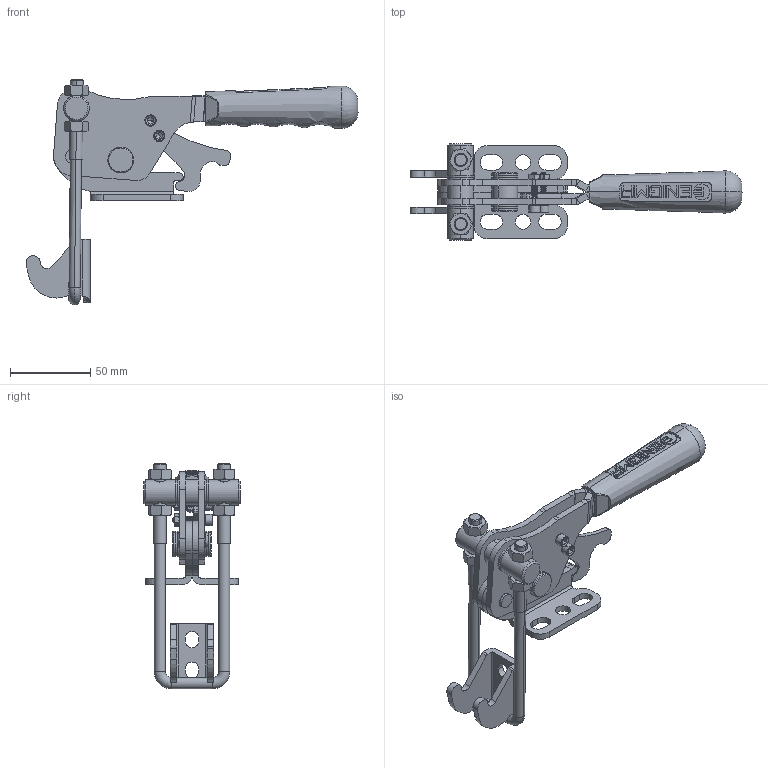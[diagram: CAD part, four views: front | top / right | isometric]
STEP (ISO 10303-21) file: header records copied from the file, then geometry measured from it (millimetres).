
FILE_DESCRIPTION (( 'STEP AP203' ), '1' );
FILE_NAME ('13208_Y_K.STEP', '2022-11-30T08:53:09', ( '' ), ( '' ), 'SwSTEP 2.0', 'SolidWorks 2023', '' );
FILE_SCHEMA (( 'CONFIG_CONTROL_DESIGN' ));
Length unit declared in the file: millimetre
Products named in the file (15): Mirror2022_13108_13110_Y_G_X2_00d6_X0_VDE_1; M8x50_U_KANCA_Varsayılan; 13108_OTOMAT_2_Varsay_X2_0131_X0_lan; 13208_Y_K; C95_Yeni_Tutamak_Varsay_X2_0131_X0_lan; M4_S; 2022_13108_13110_Y_G_X2_00d6_X0_VDE_1; _X2_00d8_X0_6x18_P(PER_X2_00c70130_X0_N)_Varsay_X2_0131_X0_lan; Mirror13108_H.KOLU_2022_Varsay_X2_0131_X0_lan; 13108_H.KOLU_2022_Varsay_X2_0131_X0_lan; M8 Somun; M8_M10_KK; 13108_OTOMAT_Varsay_X2_0131_X0_lan; 13108_K_X2_0130_X0_L_X2_0130_X0_T_MEKAN_X2_0130_X0_ZMASI; S_M4x20 Imbus Civata
Assembly tree (19 placements, depth 2):
  13208_Y_K
    2022_13108_13110_Y_G_X2_00d6_X0_VDE_1
    13108_K_X2_0130_X0_L_X2_0130_X0_T_MEKAN_X2_0130_X0_ZMASI
    13108_OTOMAT_Varsay_X2_0131_X0_lan
    13108_OTOMAT_2_Varsay_X2_0131_X0_lan
    13108_H.KOLU_2022_Varsay_X2_0131_X0_lan
    Mirror13108_H.KOLU_2022_Varsay_X2_0131_X0_lan
    Mirror2022_13108_13110_Y_G_X2_00d6_X0_VDE_1
    M8_M10_KK
    C95_Yeni_Tutamak_Varsay_X2_0131_X0_lan
    S_M4x20 Imbus Civata  x2
    _X2_00d8_X0_6x18_P(PER_X2_00c70130_X0_N)_Varsay_X2_0131_X0_lan
    M8 Somun  x4
    M4_S  x2
    M8x50_U_KANCA_Varsayılan
Bounding box: 206.93 x 60 x 140.53 mm (x, y, z)
Volume: 133337.2 mm3; surface area: 73980.8 mm2
Topology: 17 solids, 79 shells, 891 faces, 2389 edges, 1585 vertices
Faces by surface type: cylinder 373, plane 338, cone 88, bspline 50, torus 40, sphere 2
Entity records: 64501 total; most frequent: CARTESIAN_POINT 46232, ORIENTED_EDGE 3483, DIRECTION 3278, EDGE_CURVE 1807, VERTEX_POINT 1191, AXIS2_PLACEMENT_3D 1181, VECTOR 916, LINE 916
